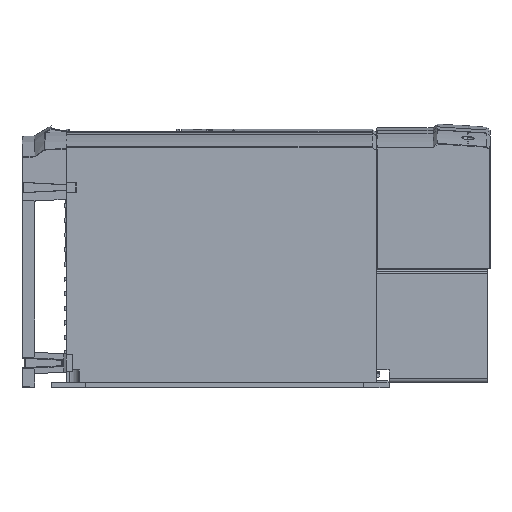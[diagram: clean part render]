
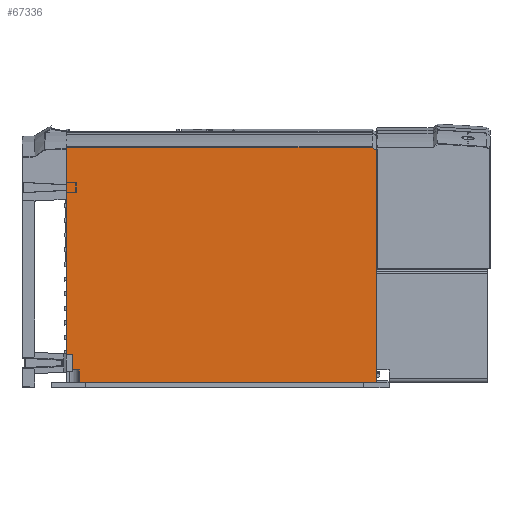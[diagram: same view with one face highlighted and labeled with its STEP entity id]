
A CAD part, left-side view. The second image highlights one B-rep face of the part: STEP entity #67336.
In plain terms, the highlighted planar face has unit normal (-1, 0, 0).
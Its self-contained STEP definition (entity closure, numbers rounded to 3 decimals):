
#11086=CARTESIAN_POINT('',(-130.54,-257.75,187.489));
#11087=CARTESIAN_POINT('',(-130.54,-257.75,187.513));
#11088=CARTESIAN_POINT('',(-130.54,-257.744,
187.56));
#11089=CARTESIAN_POINT('',(-130.54,-257.716,
187.626));
#11090=CARTESIAN_POINT('',(-130.54,-257.688,
187.663));
#11091=CARTESIAN_POINT('',(-130.54,-257.671,
187.679));
#11105=DIRECTION('',(0.,0.,1.));
#11106=VECTOR('',#11105,183.489);
#11107=CARTESIAN_POINT('',(-130.54,-257.75,4.));
#11108=LINE('',#11107,#11106);
#12878=DIRECTION('',(0.,1.,0.));
#12879=VECTOR('',#12878,235.5);
#12880=CARTESIAN_POINT('',(-130.54,-257.75,4.));
#12881=LINE('',#12880,#12879);
#12882=CARTESIAN_POINT('',(-130.54,-21.9,13.9));
#12883=DIRECTION('',(-1.,0.,0.));
#12884=DIRECTION('',(0.,-1.,0.));
#12885=AXIS2_PLACEMENT_3D('',#12882,#12883,#12884);
#12887=DIRECTION('',(0.,-0.712,
-0.702));
#12888=VECTOR('',#12887,4.085);
#12889=CARTESIAN_POINT('',(-130.54,-254.763,
190.548));
#12890=LINE('',#12889,#12888);
#12895=DIRECTION('',(0.,0.,
-1.));
#12896=VECTOR('',#12895,9.9);
#12897=CARTESIAN_POINT('',(-130.54,-22.25,
13.9));
#12898=LINE('',#12897,#12896);
#12958=DIRECTION('',(0.,-1.,0.));
#12959=VECTOR('',#12958,9.65);
#12960=CARTESIAN_POINT('',(-130.54,-12.25,14.25));
#12961=LINE('',#12960,#12959);
#13008=DIRECTION('',(0.,0.,-1.));
#13009=VECTOR('',#13008,176.369);
#13010=CARTESIAN_POINT('',(-130.54,-12.25,190.619));
#13011=LINE('',#13010,#13009);
#13177=CARTESIAN_POINT('',(-130.54,-254.763,
190.548));
#13178=CARTESIAN_POINT('',(-130.54,-254.747,
190.563));
#13179=CARTESIAN_POINT('',(-130.54,-254.713,
190.589));
#13180=CARTESIAN_POINT('',(-130.54,-254.654,
190.614));
#13181=CARTESIAN_POINT('',(-130.54,-254.613,190.619));
#13182=CARTESIAN_POINT('',(-130.54,-254.592,190.619));
#13184=DIRECTION('',(0.,1.,0.));
#13185=VECTOR('',#13184,242.342);
#13186=CARTESIAN_POINT('',(-130.54,-254.592,190.619));
#13187=LINE('',#13186,#13185);
#31370=CARTESIAN_POINT('',(-130.54,-12.25,14.25));
#31371=CARTESIAN_POINT('',(-130.54,-21.9,
14.25));
#31372=VERTEX_POINT('',#31370);
#31373=VERTEX_POINT('',#31371);
#31374=CARTESIAN_POINT('',(-130.54,-257.75,4.));
#31375=CARTESIAN_POINT('',(-130.54,-257.75,187.489));
#31376=VERTEX_POINT('',#31374);
#31377=VERTEX_POINT('',#31375);
#31378=CARTESIAN_POINT('',(-130.54,-22.25,4.));
#31379=VERTEX_POINT('',#31378);
#31380=CARTESIAN_POINT('',(-130.54,-22.25,
13.9));
#31381=VERTEX_POINT('',#31380);
#31382=CARTESIAN_POINT('',(-130.54,-12.25,190.619));
#31383=VERTEX_POINT('',#31382);
#31384=CARTESIAN_POINT('',(-130.54,-254.592,190.619));
#31385=VERTEX_POINT('',#31384);
#31386=VERTEX_POINT('',#13177);
#31387=CARTESIAN_POINT('',(-130.54,-257.671,
187.679));
#31388=VERTEX_POINT('',#31387);
#67313=CARTESIAN_POINT('',(-130.54,-258.,4.));
#67314=DIRECTION('',(-1.,0.,0.));
#67315=DIRECTION('',(0.,0.,1.));
#67316=AXIS2_PLACEMENT_3D('',#67313,#67314,#67315);
#67317=PLANE('',#67316);
#67318=ORIENTED_EDGE('',*,*,#64760,.F.);
#67319=ORIENTED_EDGE('',*,*,#64795,.T.);
#67321=ORIENTED_EDGE('',*,*,#67320,.F.);
#67323=ORIENTED_EDGE('',*,*,#67322,.T.);
#67325=ORIENTED_EDGE('',*,*,#67324,.F.);
#67327=ORIENTED_EDGE('',*,*,#67326,.F.);
#67329=ORIENTED_EDGE('',*,*,#67328,.F.);
#67331=ORIENTED_EDGE('',*,*,#67330,.F.);
#67332=ORIENTED_EDGE('',*,*,#67299,.T.);
#67333=ORIENTED_EDGE('',*,*,#64738,.F.);
#67334=EDGE_LOOP('',(#67318,#67319,#67321,#67323,#67325,#67327,#67329,#67331,
#67332,#67333));
#67335=FACE_OUTER_BOUND('',#67334,.F.);
#67336=ADVANCED_FACE('',(#67335),#67317,.T.);
#11092=B_SPLINE_CURVE_WITH_KNOTS('',3,(#11086,#11087,#11088,#11089,#11090,
#11091),.UNSPECIFIED.,.F.,.F.,(4,1,1,4),(0.,0.333,
0.667,1.),.UNSPECIFIED.);
#12886=CIRCLE('',#12885,0.35);
#13183=B_SPLINE_CURVE_WITH_KNOTS('',3,(#13177,#13178,#13179,#13180,#13181,
#13182),.UNSPECIFIED.,.F.,.F.,(4,1,1,4),(0.,0.333,
0.667,1.),.UNSPECIFIED.);
#64738=EDGE_CURVE('',#31377,#31388,#11092,.T.);
#64760=EDGE_CURVE('',#31376,#31377,#11108,.T.);
#64795=EDGE_CURVE('',#31376,#31379,#12881,.T.);
#67299=EDGE_CURVE('',#31386,#31388,#12890,.T.);
#67320=EDGE_CURVE('',#31381,#31379,#12898,.T.);
#67322=EDGE_CURVE('',#31381,#31373,#12886,.T.);
#67324=EDGE_CURVE('',#31372,#31373,#12961,.T.);
#67326=EDGE_CURVE('',#31383,#31372,#13011,.T.);
#67328=EDGE_CURVE('',#31385,#31383,#13187,.T.);
#67330=EDGE_CURVE('',#31386,#31385,#13183,.T.);
